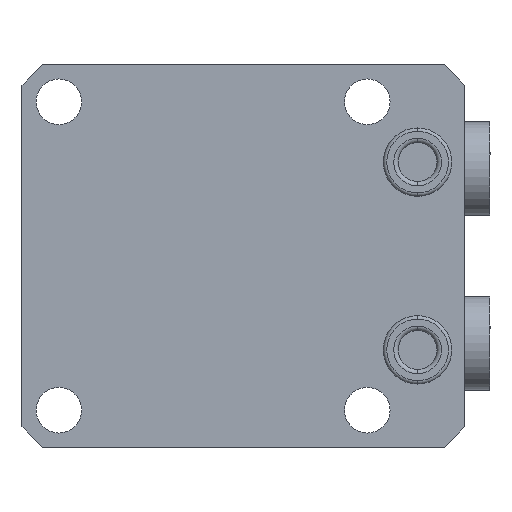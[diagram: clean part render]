
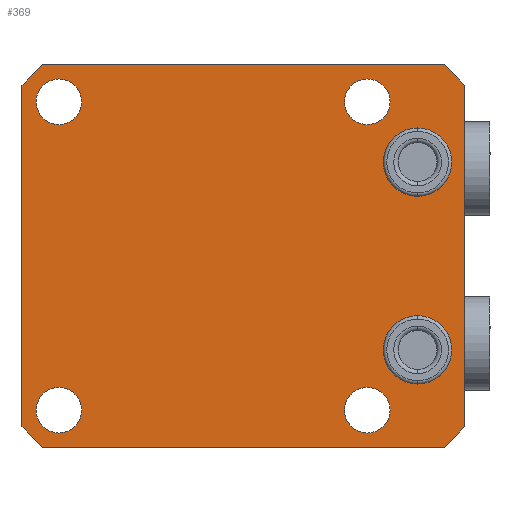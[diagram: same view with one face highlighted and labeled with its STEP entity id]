
A CAD part, front view. The second image highlights one B-rep face of the part: STEP entity #369.
In plain terms, the highlighted planar face has unit normal (0, -1, 0).
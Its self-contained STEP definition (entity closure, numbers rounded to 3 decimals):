
#232=PLANE('',#2699);
#293=FACE_BOUND('',#717,.T.);
#294=FACE_BOUND('',#718,.T.);
#295=FACE_BOUND('',#719,.T.);
#296=FACE_BOUND('',#720,.T.);
#297=FACE_BOUND('',#721,.T.);
#298=FACE_BOUND('',#722,.T.);
#299=FACE_BOUND('',#723,.T.);
#369=ADVANCED_FACE('',(#293,#294,#295,#296,#297,#298,#299),#232,.F.);
#717=EDGE_LOOP('',(#1124,#1125,#1126,#1127,#1128,#1129,#1130,#1131));
#718=EDGE_LOOP('',(#1132,#1133));
#719=EDGE_LOOP('',(#1134,#1135));
#720=EDGE_LOOP('',(#1136,#1137));
#721=EDGE_LOOP('',(#1138,#1139));
#722=EDGE_LOOP('',(#1140,#1141));
#723=EDGE_LOOP('',(#1142,#1143));
#897=CIRCLE('',#2654,5.1);
#913=CIRCLE('',#2675,5.1);
#914=CIRCLE('',#2677,3.4);
#916=CIRCLE('',#2680,3.4);
#918=CIRCLE('',#2683,3.4);
#920=CIRCLE('',#2686,3.4);
#924=CIRCLE('',#2693,3.4);
#925=CIRCLE('',#2694,3.4);
#926=CIRCLE('',#2695,3.4);
#927=CIRCLE('',#2696,3.4);
#928=CIRCLE('',#2697,5.1);
#929=CIRCLE('',#2698,5.1);
#1124=ORIENTED_EDGE('',*,*,#2047,.F.);
#1125=ORIENTED_EDGE('',*,*,#2048,.T.);
#1126=ORIENTED_EDGE('',*,*,#2049,.F.);
#1127=ORIENTED_EDGE('',*,*,#2050,.T.);
#1128=ORIENTED_EDGE('',*,*,#1970,.F.);
#1129=ORIENTED_EDGE('',*,*,#2051,.T.);
#1130=ORIENTED_EDGE('',*,*,#2052,.F.);
#1131=ORIENTED_EDGE('',*,*,#2053,.T.);
#1132=ORIENTED_EDGE('',*,*,#2027,.F.);
#1133=ORIENTED_EDGE('',*,*,#2054,.F.);
#1134=ORIENTED_EDGE('',*,*,#2023,.F.);
#1135=ORIENTED_EDGE('',*,*,#2055,.F.);
#1136=ORIENTED_EDGE('',*,*,#2019,.F.);
#1137=ORIENTED_EDGE('',*,*,#2056,.F.);
#1138=ORIENTED_EDGE('',*,*,#2015,.F.);
#1139=ORIENTED_EDGE('',*,*,#2057,.F.);
#1140=ORIENTED_EDGE('',*,*,#2058,.F.);
#1141=ORIENTED_EDGE('',*,*,#2013,.F.);
#1142=ORIENTED_EDGE('',*,*,#1993,.T.);
#1143=ORIENTED_EDGE('',*,*,#2059,.T.);
#1744=VERTEX_POINT('',#3741);
#1745=VERTEX_POINT('',#3743);
#1762=VERTEX_POINT('',#3788);
#1763=VERTEX_POINT('',#3790);
#1776=VERTEX_POINT('',#3827);
#1777=VERTEX_POINT('',#3829);
#1778=VERTEX_POINT('',#3833);
#1779=VERTEX_POINT('',#3834);
#1782=VERTEX_POINT('',#3842);
#1783=VERTEX_POINT('',#3843);
#1786=VERTEX_POINT('',#3851);
#1787=VERTEX_POINT('',#3852);
#1790=VERTEX_POINT('',#3860);
#1791=VERTEX_POINT('',#3861);
#1810=VERTEX_POINT('',#3940);
#1811=VERTEX_POINT('',#3941);
#1812=VERTEX_POINT('',#3943);
#1813=VERTEX_POINT('',#3945);
#1814=VERTEX_POINT('',#3948);
#1815=VERTEX_POINT('',#3950);
#1970=EDGE_CURVE('',#1744,#1745,#2315,.T.);
#1993=EDGE_CURVE('',#1763,#1762,#897,.T.);
#2013=EDGE_CURVE('',#1776,#1777,#913,.T.);
#2015=EDGE_CURVE('',#1778,#1779,#914,.T.);
#2019=EDGE_CURVE('',#1782,#1783,#916,.T.);
#2023=EDGE_CURVE('',#1786,#1787,#918,.T.);
#2027=EDGE_CURVE('',#1790,#1791,#920,.T.);
#2047=EDGE_CURVE('',#1810,#1811,#2339,.T.);
#2048=EDGE_CURVE('',#1810,#1812,#2340,.T.);
#2049=EDGE_CURVE('',#1813,#1812,#2341,.T.);
#2050=EDGE_CURVE('',#1813,#1745,#2342,.T.);
#2051=EDGE_CURVE('',#1744,#1814,#2343,.T.);
#2052=EDGE_CURVE('',#1815,#1814,#2344,.T.);
#2053=EDGE_CURVE('',#1815,#1811,#2345,.T.);
#2054=EDGE_CURVE('',#1791,#1790,#924,.T.);
#2055=EDGE_CURVE('',#1787,#1786,#925,.T.);
#2056=EDGE_CURVE('',#1783,#1782,#926,.T.);
#2057=EDGE_CURVE('',#1779,#1778,#927,.T.);
#2058=EDGE_CURVE('',#1777,#1776,#928,.T.);
#2059=EDGE_CURVE('',#1762,#1763,#929,.T.);
#2315=LINE('',#3742,#2467);
#2339=LINE('',#3939,#2491);
#2340=LINE('',#3942,#2492);
#2341=LINE('',#3944,#2493);
#2342=LINE('',#3946,#2494);
#2343=LINE('',#3947,#2495);
#2344=LINE('',#3949,#2496);
#2345=LINE('',#3951,#2497);
#2467=VECTOR('',#2964,1.);
#2491=VECTOR('',#3110,1.);
#2492=VECTOR('',#3111,1.);
#2493=VECTOR('',#3112,1.);
#2494=VECTOR('',#3113,1.);
#2495=VECTOR('',#3114,1.);
#2496=VECTOR('',#3115,1.);
#2497=VECTOR('',#3116,1.);
#2654=AXIS2_PLACEMENT_3D('',#3789,#3015,#3016);
#2675=AXIS2_PLACEMENT_3D('',#3828,#3061,#3062);
#2677=AXIS2_PLACEMENT_3D('',#3832,#3066,#3067);
#2680=AXIS2_PLACEMENT_3D('',#3841,#3074,#3075);
#2683=AXIS2_PLACEMENT_3D('',#3850,#3082,#3083);
#2686=AXIS2_PLACEMENT_3D('',#3859,#3090,#3091);
#2693=AXIS2_PLACEMENT_3D('',#3952,#3117,#3118);
#2694=AXIS2_PLACEMENT_3D('',#3953,#3119,#3120);
#2695=AXIS2_PLACEMENT_3D('',#3954,#3121,#3122);
#2696=AXIS2_PLACEMENT_3D('',#3955,#3123,#3124);
#2697=AXIS2_PLACEMENT_3D('',#3956,#3125,#3126);
#2698=AXIS2_PLACEMENT_3D('',#3957,#3127,#3128);
#2699=AXIS2_PLACEMENT_3D('',#3958,#3129,#3130);
#2964=DIRECTION('',(0.,0.,-1.));
#3015=DIRECTION('',(0.,1.,0.));
#3016=DIRECTION('',(0.,0.,1.));
#3061=DIRECTION('',(0.,-1.,0.));
#3062=DIRECTION('',(0.,0.,-1.));
#3066=DIRECTION('',(0.,-1.,0.));
#3067=DIRECTION('',(0.,0.,1.));
#3074=DIRECTION('',(0.,-1.,0.));
#3075=DIRECTION('',(0.,0.,1.));
#3082=DIRECTION('',(0.,-1.,0.));
#3083=DIRECTION('',(0.,0.,1.));
#3090=DIRECTION('',(0.,-1.,0.));
#3091=DIRECTION('',(0.,0.,1.));
#3110=DIRECTION('',(0.,0.,1.));
#3111=DIRECTION('',(0.707,0.,-0.707));
#3112=DIRECTION('',(-1.,0.,0.));
#3113=DIRECTION('',(0.707,0.,0.707));
#3114=DIRECTION('',(-0.707,0.,0.707));
#3115=DIRECTION('',(1.,0.,0.));
#3116=DIRECTION('',(-0.707,0.,-0.707));
#3117=DIRECTION('',(0.,-1.,0.));
#3118=DIRECTION('',(0.,0.,1.));
#3119=DIRECTION('',(0.,-1.,0.));
#3120=DIRECTION('',(0.,0.,1.));
#3121=DIRECTION('',(0.,-1.,0.));
#3122=DIRECTION('',(0.,0.,1.));
#3123=DIRECTION('',(0.,-1.,0.));
#3124=DIRECTION('',(0.,0.,1.));
#3125=DIRECTION('',(0.,-1.,0.));
#3126=DIRECTION('',(0.,0.,-1.));
#3127=DIRECTION('',(0.,1.,0.));
#3128=DIRECTION('',(0.,0.,1.));
#3129=DIRECTION('',(0.,1.,0.));
#3130=DIRECTION('',(0.,0.,1.));
#3741=CARTESIAN_POINT('',(37.5,0.,25.5));
#3742=CARTESIAN_POINT('',(37.5,0.,-28.5));
#3743=CARTESIAN_POINT('',(37.5,0.,-25.5));
#3788=CARTESIAN_POINT('',(30.5,0.,19.1));
#3789=CARTESIAN_POINT('',(30.5,0.,14.));
#3790=CARTESIAN_POINT('',(30.5,0.,8.9));
#3827=CARTESIAN_POINT('',(30.5,0.,-8.9));
#3828=CARTESIAN_POINT('',(30.5,0.,-14.));
#3829=CARTESIAN_POINT('',(30.5,0.,-19.1));
#3832=CARTESIAN_POINT('',(-23.,0.,23.));
#3833=CARTESIAN_POINT('',(-23.,0.,26.4));
#3834=CARTESIAN_POINT('',(-23.,0.,19.6));
#3841=CARTESIAN_POINT('',(23.,0.,23.));
#3842=CARTESIAN_POINT('',(23.,0.,26.4));
#3843=CARTESIAN_POINT('',(23.,0.,19.6));
#3850=CARTESIAN_POINT('',(-23.,0.,-23.));
#3851=CARTESIAN_POINT('',(-23.,0.,-19.6));
#3852=CARTESIAN_POINT('',(-23.,0.,-26.4));
#3859=CARTESIAN_POINT('',(23.,0.,-23.));
#3860=CARTESIAN_POINT('',(23.,0.,-19.6));
#3861=CARTESIAN_POINT('',(23.,0.,-26.4));
#3939=CARTESIAN_POINT('',(-28.5,0.,-28.5));
#3940=CARTESIAN_POINT('',(-28.5,0.,-25.5));
#3941=CARTESIAN_POINT('',(-28.5,0.,25.5));
#3942=CARTESIAN_POINT('',(-28.5,0.,-25.5));
#3943=CARTESIAN_POINT('',(-25.5,0.,-28.5));
#3944=CARTESIAN_POINT('',(-28.5,0.,-28.5));
#3945=CARTESIAN_POINT('',(34.5,0.,-28.5));
#3946=CARTESIAN_POINT('',(34.5,0.,-28.5));
#3947=CARTESIAN_POINT('',(37.5,0.,25.5));
#3948=CARTESIAN_POINT('',(34.5,0.,28.5));
#3949=CARTESIAN_POINT('',(-28.5,0.,28.5));
#3950=CARTESIAN_POINT('',(-25.5,0.,28.5));
#3951=CARTESIAN_POINT('',(-25.5,0.,28.5));
#3952=CARTESIAN_POINT('',(23.,0.,-23.));
#3953=CARTESIAN_POINT('',(-23.,0.,-23.));
#3954=CARTESIAN_POINT('',(23.,0.,23.));
#3955=CARTESIAN_POINT('',(-23.,0.,23.));
#3956=CARTESIAN_POINT('',(30.5,0.,-14.));
#3957=CARTESIAN_POINT('',(30.5,0.,14.));
#3958=CARTESIAN_POINT('',(-28.5,0.,28.5));
